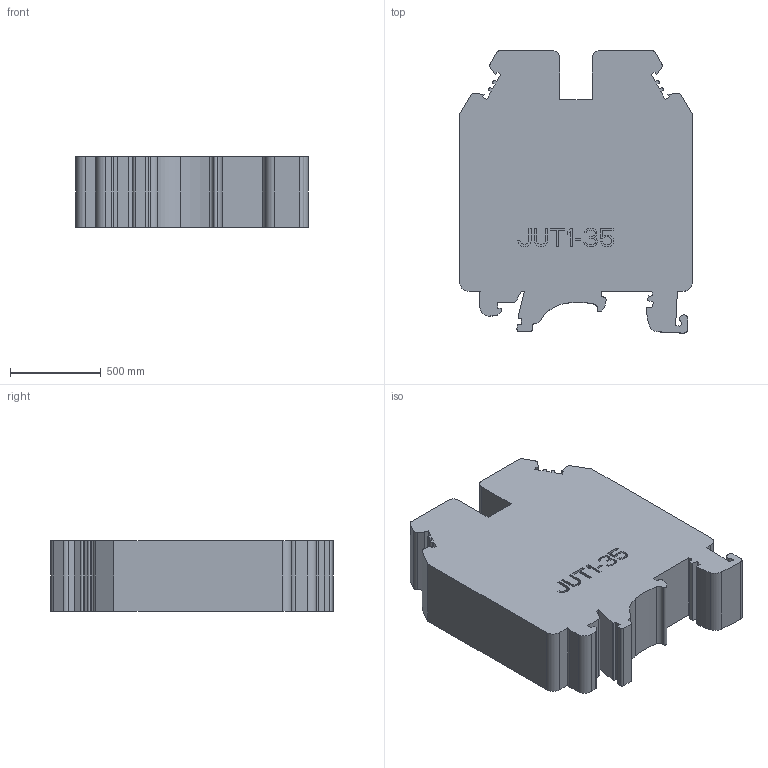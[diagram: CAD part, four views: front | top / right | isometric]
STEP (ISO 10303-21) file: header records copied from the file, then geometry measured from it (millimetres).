
FILE_DESCRIPTION((''),'2;1');
FILE_NAME('PRT0001','2022-04-18T',('Administrator'),(''),'PRO/ENGINEER BY PARAMETRIC TECHNOLOGY CORPORATION, 2008020','PRO/ENGINEER BY PARAMETRIC TECHNOLOGY CORPORATION, 2008020','');
FILE_SCHEMA(('CONFIG_CONTROL_DESIGN'));
Length unit declared in the file: inch
Products named in the file (1): PRT0001
Bounding box: 1280.16 x 1555.83 x 386.08 mm (x, y, z)
Volume: 629517929.3 mm3; surface area: 6306107.4 mm2
Topology: 1 solids, 1 shells, 284 faces, 825 edges, 550 vertices
Faces by surface type: plane 246, cylinder 38
Entity records: 9285 total; most frequent: CARTESIAN_POINT 1659, ORIENTED_EDGE 1650, DIRECTION 1469, EDGE_CURVE 825, VECTOR 749, LINE 749, VERTEX_POINT 550, AXIS2_PLACEMENT_3D 360
